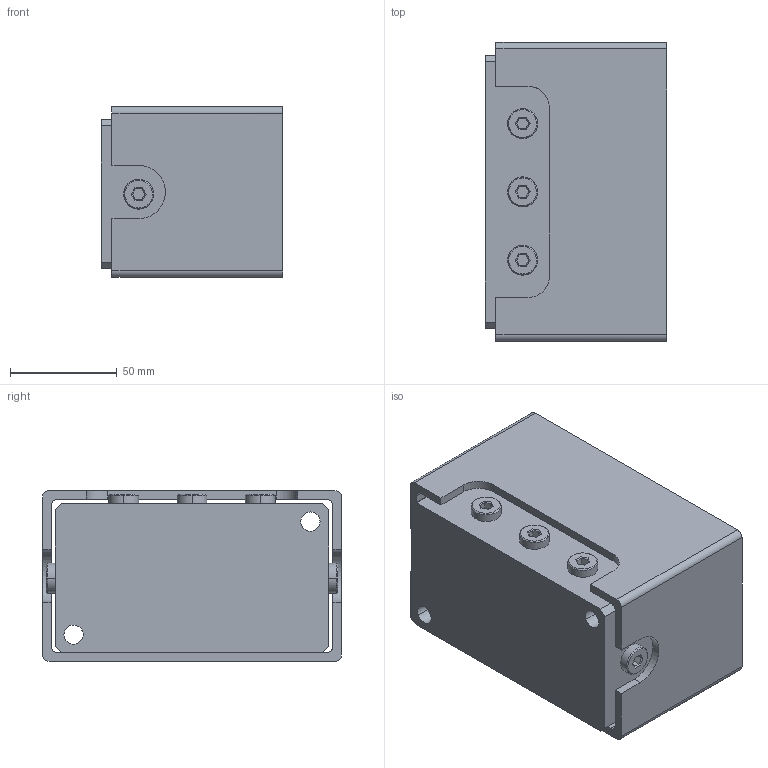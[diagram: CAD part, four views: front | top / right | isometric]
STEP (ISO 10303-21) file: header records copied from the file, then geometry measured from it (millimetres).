
FILE_DESCRIPTION(('CATIA V5 STEP Exchange'),'2;1');
FILE_NAME('W:\LIBRERIA TECAPRES®\FICHEROS CAD\PANEL DE CONTROL\P100M.stp','2016-02-03T05:27:04+00:00',('none'),('none'),'CATIA Version 5 Release 17 (IN-10)','CATIA V5 STEP AP203','none');
FILE_SCHEMA(('CONFIG_CONTROL_DESIGN'));
Length unit declared in the file: millimetre
Products named in the file (1): P100M
Bounding box: 85 x 140 x 80 mm (x, y, z)
Volume: 502274.7 mm3; surface area: 107544.1 mm2
Topology: 1 solids, 1 shells, 428 faces, 1091 edges, 699 vertices
Faces by surface type: plane 221, cylinder 145, cone 52, torus 10
Entity records: 14370 total; most frequent: CARTESIAN_POINT 4636, ORIENTED_EDGE 2182, DIRECTION 1627, EDGE_CURVE 1091, VERTEX_POINT 699, VECTOR 684, LINE 684, AXIS2_PLACEMENT_3D 575
